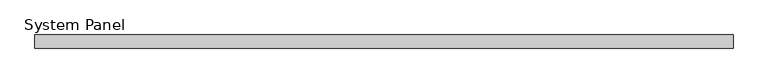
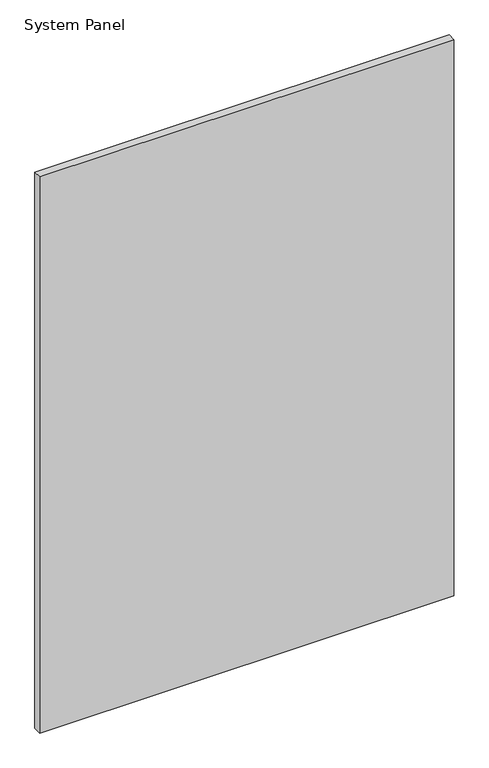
"""IFC4 building model written with IfcOpenShell, lengths in millimetres: plate geometry, System Panel : Panel_Glazed_Generic Showcase_30mm."""

import ifcopenshell
import ifcopenshell.guid

model = None  # the IFC model being written
_history = None  # IfcOwnerHistory: only IFC2X3 demands one
_inside = {}  # id of a spatial element -> (the spatial element, [elements in it])
_under = {}  # id of a project, library or spatial element -> (it, [spatial elements below it])
_declared = {}  # id of a project -> (the project, [libraries it declares])
_typed = {}  # id of a type object -> (the type object, [elements of that type])
_made_of = {}  # id of a material, layer set ... -> (it, [elements and type objects made of it])


def new_model(schema):
    """Start an empty IFC model of exactly this schema.

    Asked for "IFC4X3", IfcOpenShell would pick the latest addendum, in which some entities
    have other attributes; the version numbers below select the first issue.
    IFC2X3 requires an IfcOwnerHistory on every rooted entity: one is made here for all.
    """
    global model, _history
    if schema == "IFC4X3":
        model = ifcopenshell.file(schema_version=(4, 3, 0, 0))
    else:
        model = ifcopenshell.file(schema=schema)
    _inside.clear()
    _under.clear()
    _declared.clear()
    _typed.clear()
    _made_of.clear()
    _history = None
    if model.schema == "IFC2X3":
        org = make("IfcOrganization", Name="unknown")
        user = make(
            "IfcPersonAndOrganization",
            ThePerson=make("IfcPerson", FamilyName="unknown"),
            TheOrganization=org,
        )
        app = make(
            "IfcApplication",
            ApplicationDeveloper=org,
            Version="unknown",
            ApplicationFullName="unknown",
            ApplicationIdentifier="unknown",
        )
        _history = make(
            "IfcOwnerHistory",
            OwningUser=user,
            OwningApplication=app,
            ChangeAction="ADDED",
            CreationDate=0,
        )
    return model


def make(cls, **values):
    """One entity of the class cls with the attributes given. An attribute that is None is left unset."""
    return model.create_entity(
        cls, **{name: value for name, value in values.items() if value is not None}
    )


def rooted(cls, **values):
    """An entity with a GlobalId (a new one), such as an element, a storey or a relation."""
    return make(cls, GlobalId=ifcopenshell.guid.new(), OwnerHistory=_history, **values)


def si_unit(unit_type, name, prefix=None):
    """IfcSIUnit, for example si_unit("LENGTHUNIT", "METRE", prefix="MILLI")."""
    return make("IfcSIUnit", UnitType=unit_type, Prefix=prefix, Name=name)


def assignment(units):
    """IfcUnitAssignment: the units of a project."""
    return None if units is None else make("IfcUnitAssignment", Units=units)


def point(xyz):
    """IfcCartesianPoint."""
    return None if xyz is None else make("IfcCartesianPoint", Coordinates=xyz)


def direction(xyz):
    """IfcDirection."""
    return None if xyz is None else make("IfcDirection", DirectionRatios=xyz)


def frame(location, z_axis=None, x_axis=None):
    """IfcAxis2Placement3D, a coordinate frame: its origin and axes. An axis left out is left unset."""
    return make(
        "IfcAxis2Placement3D",
        Location=point(location),
        Axis=direction(z_axis),
        RefDirection=direction(x_axis),
    )


def origin():
    """The frame at (0, 0, 0) with its axes left unset."""
    return frame((0.0, 0.0, 0.0))


def origin_with_axes():
    """The frame at (0, 0, 0) with the z axis (0, 0, 1) and the x axis (1, 0, 0) written out."""
    return frame((0.0, 0.0, 0.0), z_axis=(0.0, 0.0, 1.0), x_axis=(1.0, 0.0, 0.0))


def place(relative_to, where):
    """IfcLocalPlacement: puts the frame where relative to a parent placement (None: the world)."""
    return make(
        "IfcLocalPlacement", PlacementRelTo=relative_to, RelativePlacement=where
    )


def context(
    kind, dimensions, precision=None, world=None, true_north=None, identifier=None
):
    """IfcGeometricRepresentationContext, for example the 3D "Model" context."""
    return make(
        "IfcGeometricRepresentationContext",
        ContextIdentifier=identifier,
        ContextType=kind,
        CoordinateSpaceDimension=dimensions,
        Precision=precision,
        WorldCoordinateSystem=world,
        TrueNorth=true_north,
    )


def project(units=None, contexts=None):
    """IfcProject with its units and contexts."""
    return rooted(
        "IfcProject",
        Name="project",
        RepresentationContexts=contexts,
        UnitsInContext=assignment(units),
    )


def spatial(cls, under=None, at=None, **own):
    """A site, building, storey or space (cls), placed at a placement, below another one or the project."""
    s = rooted(cls, ObjectPlacement=at, **own)
    if under is not None:
        _under.setdefault(under.id(), (under, []))[1].append(s)
    return s


def polyline(points):
    """IfcPolyline through the points."""
    return make("IfcPolyline", Points=[point(p) for p in points])


def outline(outer, holes=None, kind="AREA"):
    """IfcArbitraryClosedProfileDef: a profile drawn as a closed curve; with holes, ...WithVoids."""
    if holes is None:
        return make("IfcArbitraryClosedProfileDef", ProfileType=kind, OuterCurve=outer)
    return make(
        "IfcArbitraryProfileDefWithVoids",
        ProfileType=kind,
        OuterCurve=outer,
        InnerCurves=holes,
    )


def extrude(swept, where, along, depth):
    """IfcExtrudedAreaSolid: the profile swept, set in the frame where, extruded along a direction by depth."""
    return make(
        "IfcExtrudedAreaSolid",
        SweptArea=swept,
        Position=where,
        ExtrudedDirection=direction(along),
        Depth=depth,
    )


def shape(context_of_items, identifier, shape_type, items):
    """IfcShapeRepresentation: the items that make up one representation, for example the "Body"."""
    return make(
        "IfcShapeRepresentation",
        ContextOfItems=context_of_items,
        RepresentationIdentifier=identifier,
        RepresentationType=shape_type,
        Items=items,
    )


def source(mapping_origin, context_of_items, identifier, shape_type, items):
    """IfcRepresentationMap: a shape defined once, which mapped items show again and again."""
    return make(
        "IfcRepresentationMap",
        MappingOrigin=mapping_origin,
        MappedRepresentation=shape(context_of_items, identifier, shape_type, items),
    )


def transform(
    local_origin,
    x_axis=None,
    y_axis=None,
    z_axis=None,
    scale=None,
    scale2=None,
    scale3=None,
    uniform=True,
):
    """IfcCartesianTransformationOperator3D, or its non-uniform kind. x_axis, y_axis, z_axis: its Axis1, 2, 3."""
    if uniform:
        return make(
            "IfcCartesianTransformationOperator3D",
            Axis1=direction(x_axis),
            Axis2=direction(y_axis),
            LocalOrigin=point(local_origin),
            Scale=scale,
            Axis3=direction(z_axis),
        )
    return make(
        "IfcCartesianTransformationOperator3DnonUniform",
        Axis1=direction(x_axis),
        Axis2=direction(y_axis),
        LocalOrigin=point(local_origin),
        Scale=scale,
        Axis3=direction(z_axis),
        Scale2=scale2,
        Scale3=scale3,
    )


def mapped(mapping_source, mapping_target):
    """IfcMappedItem: shows the shape of a source again, moved by a transform."""
    return make(
        "IfcMappedItem", MappingSource=mapping_source, MappingTarget=mapping_target
    )


def made_of(thing, what):
    """Note that an element or type object is made of a material, layer set ...; save() writes the relation."""
    if what is not None:
        _made_of.setdefault(what.id(), (what, []))[1].append(thing)
    return thing


def element(
    cls,
    number,
    at=None,
    inside=None,
    cuts=None,
    type_object=None,
    material=None,
    context=None,
    identifier="Body",
    shape_type=None,
    held_by="IfcProductDefinitionShape",
    body=None,
    shapes=None,
    **own,
):
    """One element of the class cls, such as IfcWall. Its Tag is "e" and its number.

    at: its placement. inside: the storey or other place that contains it. cuts: it is an
    opening in that element (IfcRelVoidsElement). A single representation is given by context,
    identifier, shape_type and body (its items); several are given by shapes. held_by: the class
    of the entity that holds the representations. save() writes the other relations.
    """
    e = rooted(cls, Tag="e%d" % number, ObjectPlacement=at, **own)
    if body is not None:
        shapes = [shape(context, identifier, shape_type, body)]
    if shapes is not None:
        e.Representation = make(held_by, Representations=shapes)
    if inside is not None:
        _inside.setdefault(inside.id(), (inside, []))[1].append(e)
    if cuts is not None:
        rooted(
            "IfcRelVoidsElement", RelatingBuildingElement=cuts, RelatedOpeningElement=e
        )
    if type_object is not None:
        _typed.setdefault(type_object.id(), (type_object, []))[1].append(e)
    return made_of(e, material)


def aggregate(whole, parts):
    """IfcRelAggregates: a whole, such as a stair, and the parts it consists of."""
    return rooted("IfcRelAggregates", RelatingObject=whole, RelatedObjects=parts)


def save(model, path):
    """Write the relations noted so far, then the file.

    IfcRelAggregates (storeys below a building ...), IfcRelContainedInSpatialStructure (elements
    in a storey), IfcRelDefinesByType, IfcRelAssociatesMaterial and IfcRelDeclares: one each for
    every whole, place, type object, material and project.
    """
    for whole, parts in _under.values():
        aggregate(whole, parts)
    for where, things in _inside.values():
        rooted(
            "IfcRelContainedInSpatialStructure",
            RelatedElements=things,
            RelatingStructure=where,
        )
    for kind, things in _typed.values():
        rooted("IfcRelDefinesByType", RelatedObjects=things, RelatingType=kind)
    for what, things in _made_of.values():
        rooted("IfcRelAssociatesMaterial", RelatedObjects=things, RelatingMaterial=what)
    for by, libraries in _declared.values():
        rooted("IfcRelDeclares", RelatingContext=by, RelatedDefinitions=libraries)
    model.write(path)


def system_panel_e44423fa(model_context):
    return source(origin(), model_context, "Body", "SweptSolid", [
        extrude(outline(polyline([(775.0, -30.0), (-775.0, -30.0), (-775.0, 0.0), (775.0, 0.0), (775.0, -30.0)])), origin_with_axes(), (0.0, 0.0, 1.0), 2200.0),
    ])


if __name__ == "__main__":
    model = new_model("IFC4")
    model_context = context("Model", 3, world=origin())
    ifc_project = project(units=[si_unit("LENGTHUNIT", "METRE", prefix="MILLI")], contexts=[model_context])
    site = spatial("IfcSite", under=ifc_project)
    building = spatial("IfcBuilding", under=site)
    placement = place(None, origin())
    system_panel_shape = system_panel_e44423fa(model_context)
    element("IfcPlate", 1, ObjectType="System Panel : Panel_Glazed_Generic Showcase_30mm", at=placement, inside=building, context=model_context, shape_type="MappedRepresentation", body=[
        mapped(system_panel_shape, transform((0.0, 0.0, 0.0), x_axis=(1.0, 0.0, 0.0), y_axis=(0.0, 1.0, 0.0), z_axis=(0.0, 0.0, 1.0))),
    ])
    save(model, "model.ifc")
